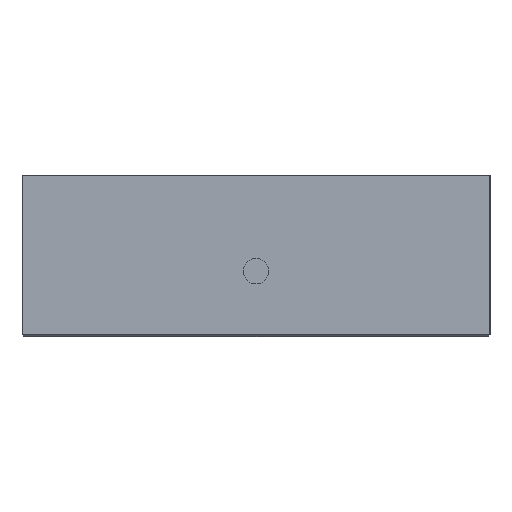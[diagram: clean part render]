
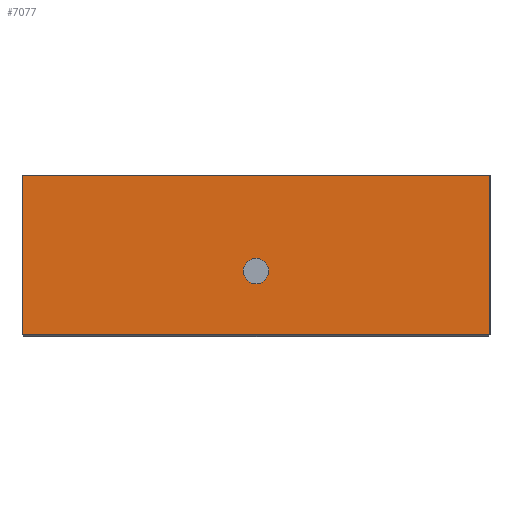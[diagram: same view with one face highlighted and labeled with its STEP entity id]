
A CAD part, left-side view. The second image highlights one B-rep face of the part: STEP entity #7077.
In plain terms, the highlighted planar face has unit normal (-1, 0, 0).
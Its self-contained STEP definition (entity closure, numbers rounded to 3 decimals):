
#125 = DIRECTION ( 'NONE',  ( 1., 0., 0. ) ) ;
#315 = CIRCLE ( 'NONE', #6456, 1.65 ) ;
#413 = CARTESIAN_POINT ( 'NONE',  ( -5., -5., 243.584 ) ) ;
#627 = AXIS2_PLACEMENT_3D ( 'NONE', #413, #6333, #5258 ) ;
#943 = DIRECTION ( 'NONE',  ( 0., 0., -1. ) ) ;
#1296 = EDGE_CURVE ( 'NONE', #8969, #3241, #7487, .T. ) ;
#1637 = DIRECTION ( 'NONE',  ( 0., -1., 0. ) ) ;
#1793 = FACE_OUTER_BOUND ( 'NONE', #8023, .T. ) ;
#2615 = DIRECTION ( 'NONE',  ( 1., 0., 0. ) ) ;
#2671 = VERTEX_POINT ( 'NONE', #5234 ) ;
#2731 = EDGE_LOOP ( 'NONE', ( #12459, #4392 ) ) ;
#3025 = CIRCLE ( 'NONE', #13072, 1.65 ) ;
#3241 = VERTEX_POINT ( 'NONE', #4286 ) ;
#3500 = DIRECTION ( 'NONE',  ( 0., 0., -1. ) ) ;
#4286 = CARTESIAN_POINT ( 'NONE',  ( -5., -5., 21.06 ) ) ;
#4392 = ORIENTED_EDGE ( 'NONE', *, *, #14925, .T. ) ;
#4742 = DIRECTION ( 'NONE',  ( 0., 1., 0. ) ) ;
#4901 = LINE ( 'NONE', #13044, #8256 ) ;
#4960 = VECTOR ( 'NONE', #943, 1000. ) ;
#5234 = CARTESIAN_POINT ( 'NONE',  ( -5., 27.15, 8.56 ) ) ;
#5258 = DIRECTION ( 'NONE',  ( 0., -1., 0. ) ) ;
#5471 = VECTOR ( 'NONE', #3500, 1000. ) ;
#5829 = CARTESIAN_POINT ( 'NONE',  ( -5., 56., 21.06 ) ) ;
#5901 = DIRECTION ( 'NONE',  ( 0., -1., 0. ) ) ;
#6071 = DIRECTION ( 'NONE',  ( 0., 1., 0. ) ) ;
#6333 = DIRECTION ( 'NONE',  ( -1., 0., 0. ) ) ;
#6456 = AXIS2_PLACEMENT_3D ( 'NONE', #14999, #2615, #6071 ) ;
#6804 = ORIENTED_EDGE ( 'NONE', *, *, #1296, .F. ) ;
#7077 = ADVANCED_FACE ( 'NONE', ( #12399, #1793 ), #13480, .T. ) ;
#7186 = ORIENTED_EDGE ( 'NONE', *, *, #9926, .F. ) ;
#7487 = LINE ( 'NONE', #12162, #13270 ) ;
#8023 = EDGE_LOOP ( 'NONE', ( #10796, #9447, #7186, #6804 ) ) ;
#8256 = VECTOR ( 'NONE', #5901, 1000. ) ;
#8954 = EDGE_CURVE ( 'NONE', #11103, #11511, #4901, .T. ) ;
#8969 = VERTEX_POINT ( 'NONE', #5829 ) ;
#9343 = LINE ( 'NONE', #14019, #5471 ) ;
#9447 = ORIENTED_EDGE ( 'NONE', *, *, #8954, .T. ) ;
#9926 = EDGE_CURVE ( 'NONE', #3241, #11511, #11472, .T. ) ;
#10247 = CARTESIAN_POINT ( 'NONE',  ( -5., -5., 243.584 ) ) ;
#10358 = VERTEX_POINT ( 'NONE', #12528 ) ;
#10782 = EDGE_CURVE ( 'NONE', #8969, #11103, #9343, .T. ) ;
#10796 = ORIENTED_EDGE ( 'NONE', *, *, #10782, .T. ) ;
#11103 = VERTEX_POINT ( 'NONE', #14760 ) ;
#11472 = LINE ( 'NONE', #10247, #4960 ) ;
#11511 = VERTEX_POINT ( 'NONE', #12743 ) ;
#11541 = EDGE_CURVE ( 'NONE', #10358, #2671, #3025, .T. ) ;
#12162 = CARTESIAN_POINT ( 'NONE',  ( -5., -5., 21.06 ) ) ;
#12399 = FACE_BOUND ( 'NONE', #2731, .T. ) ;
#12459 = ORIENTED_EDGE ( 'NONE', *, *, #11541, .T. ) ;
#12528 = CARTESIAN_POINT ( 'NONE',  ( -5., 23.85, 8.56 ) ) ;
#12666 = CARTESIAN_POINT ( 'NONE',  ( -5., 25.5, 8.56 ) ) ;
#12743 = CARTESIAN_POINT ( 'NONE',  ( -5., -5., 0.25 ) ) ;
#13044 = CARTESIAN_POINT ( 'NONE',  ( -5., -5., 0.25 ) ) ;
#13072 = AXIS2_PLACEMENT_3D ( 'NONE', #12666, #125, #4742 ) ;
#13270 = VECTOR ( 'NONE', #1637, 1000. ) ;
#13480 = PLANE ( 'NONE',  #627 ) ;
#14019 = CARTESIAN_POINT ( 'NONE',  ( -5., 56., 243.584 ) ) ;
#14760 = CARTESIAN_POINT ( 'NONE',  ( -5., 56., 0.25 ) ) ;
#14925 = EDGE_CURVE ( 'NONE', #2671, #10358, #315, .T. ) ;
#14999 = CARTESIAN_POINT ( 'NONE',  ( -5., 25.5, 8.56 ) ) ;
